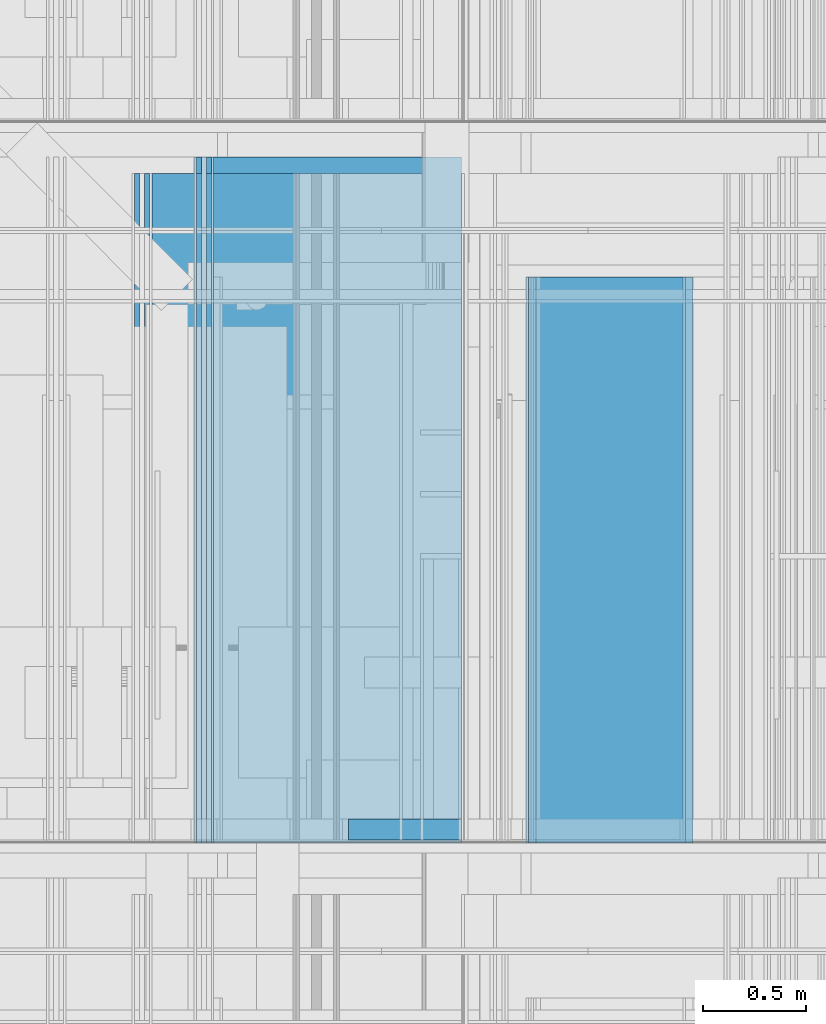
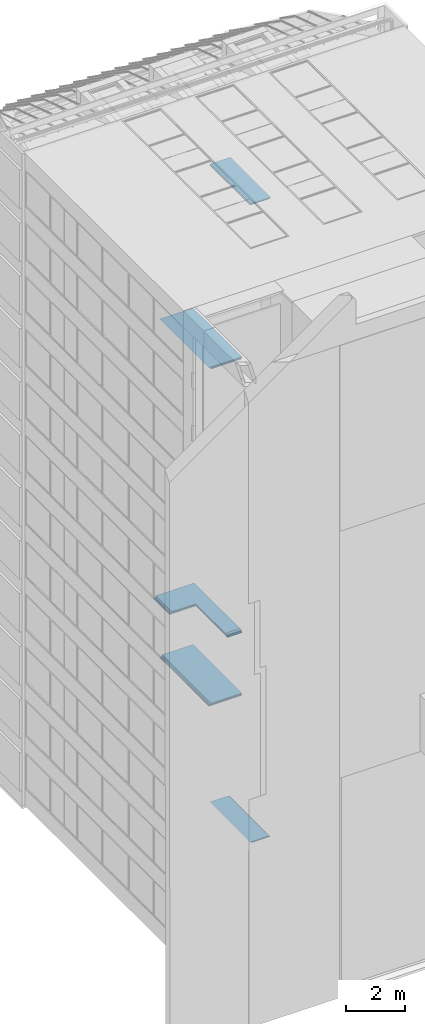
# One storey, part 71 of 583: 15 building element parts, 3 openings, 5 elements without a shape of their own.
"""IFC2X3 building model written with IfcOpenShell, lengths in metres."""

import ifcopenshell
import ifcopenshell.guid

model = None  # the IFC model being written
_history = None  # IfcOwnerHistory: only IFC2X3 demands one
_inside = {}  # id of a spatial element -> (the spatial element, [elements in it])
_under = {}  # id of a project, library or spatial element -> (it, [spatial elements below it])
_declared = {}  # id of a project -> (the project, [libraries it declares])
_typed = {}  # id of a type object -> (the type object, [elements of that type])
_made_of = {}  # id of a material, layer set ... -> (it, [elements and type objects made of it])


def new_model(schema):
    """Start an empty IFC model of exactly this schema.

    Asked for "IFC4X3", IfcOpenShell would pick the latest addendum, in which some entities
    have other attributes; the version numbers below select the first issue.
    IFC2X3 requires an IfcOwnerHistory on every rooted entity: one is made here for all.
    """
    global model, _history
    if schema == "IFC4X3":
        model = ifcopenshell.file(schema_version=(4, 3, 0, 0))
    else:
        model = ifcopenshell.file(schema=schema)
    _inside.clear()
    _under.clear()
    _declared.clear()
    _typed.clear()
    _made_of.clear()
    _history = None
    if model.schema == "IFC2X3":
        org = make("IfcOrganization", Name="unknown")
        user = make(
            "IfcPersonAndOrganization",
            ThePerson=make("IfcPerson", FamilyName="unknown"),
            TheOrganization=org,
        )
        app = make(
            "IfcApplication",
            ApplicationDeveloper=org,
            Version="unknown",
            ApplicationFullName="unknown",
            ApplicationIdentifier="unknown",
        )
        _history = make(
            "IfcOwnerHistory",
            OwningUser=user,
            OwningApplication=app,
            ChangeAction="ADDED",
            CreationDate=0,
        )
    return model


def make(cls, **values):
    """One entity of the class cls with the attributes given. An attribute that is None is left unset."""
    return model.create_entity(
        cls, **{name: value for name, value in values.items() if value is not None}
    )


def entity(cls, *values):
    """Any entity or typed value of the class cls, its attributes in the order of the schema. None: left unset."""
    e = model.create_entity(cls)
    for i, value in enumerate(values):
        if value is not None:
            e[i] = value
    return e


def rooted(cls, **values):
    """An entity with a GlobalId (a new one), such as an element, a storey or a relation."""
    return make(cls, GlobalId=ifcopenshell.guid.new(), OwnerHistory=_history, **values)


def si_unit(unit_type, name, prefix=None):
    """IfcSIUnit, for example si_unit("LENGTHUNIT", "METRE", prefix="MILLI")."""
    return make("IfcSIUnit", UnitType=unit_type, Prefix=prefix, Name=name)


def converted_unit(unit_type, name, factor, base, dimensions=None, offset=None):
    """IfcConversionBasedUnit, such as the inch: factor (a typed value) times the base unit."""
    return make(
        "IfcConversionBasedUnit"
        if offset is None
        else "IfcConversionBasedUnitWithOffset",
        ConversionOffset=offset,
        Dimensions=None
        if dimensions is None
        else entity("IfcDimensionalExponents", *dimensions),
        UnitType=unit_type,
        Name=name,
        ConversionFactor=make(
            "IfcMeasureWithUnit", ValueComponent=factor, UnitComponent=base
        ),
    )


def derived_unit(unit_type, elements):
    """IfcDerivedUnit: a product of units, each with its exponent."""
    return make(
        "IfcDerivedUnit",
        Elements=[
            make("IfcDerivedUnitElement", Unit=unit, Exponent=power)
            for unit, power in elements
        ],
        UnitType=unit_type,
    )


def money_unit(currency):
    """IfcMonetaryUnit."""
    return make("IfcMonetaryUnit", Currency=currency)


def assignment(units):
    """IfcUnitAssignment: the units of a project."""
    return None if units is None else make("IfcUnitAssignment", Units=units)


def point(xyz):
    """IfcCartesianPoint."""
    return None if xyz is None else make("IfcCartesianPoint", Coordinates=xyz)


def direction(xyz):
    """IfcDirection."""
    return None if xyz is None else make("IfcDirection", DirectionRatios=xyz)


def frame(location, z_axis=None, x_axis=None):
    """IfcAxis2Placement3D, a coordinate frame: its origin and axes. An axis left out is left unset."""
    return make(
        "IfcAxis2Placement3D",
        Location=point(location),
        Axis=direction(z_axis),
        RefDirection=direction(x_axis),
    )


def frame_2d(location, x_axis=None):
    """IfcAxis2Placement2D, a coordinate frame in the plane: its origin and x axis."""
    return make(
        "IfcAxis2Placement2D", Location=point(location), RefDirection=direction(x_axis)
    )


def origin_with_axes():
    """The frame at (0, 0, 0) with the z axis (0, 0, 1) and the x axis (1, 0, 0) written out."""
    return frame((0.0, 0.0, 0.0), z_axis=(0.0, 0.0, 1.0), x_axis=(1.0, 0.0, 0.0))


def place(relative_to, where):
    """IfcLocalPlacement: puts the frame where relative to a parent placement (None: the world)."""
    return make(
        "IfcLocalPlacement", PlacementRelTo=relative_to, RelativePlacement=where
    )


def context(
    kind, dimensions, precision=None, world=None, true_north=None, identifier=None
):
    """IfcGeometricRepresentationContext, for example the 3D "Model" context."""
    return make(
        "IfcGeometricRepresentationContext",
        ContextIdentifier=identifier,
        ContextType=kind,
        CoordinateSpaceDimension=dimensions,
        Precision=precision,
        WorldCoordinateSystem=world,
        TrueNorth=true_north,
    )


def subcontext(parent, identifier, kind, view, scale=None):
    """IfcGeometricRepresentationSubContext, for example "Body" below "Model"."""
    return make(
        "IfcGeometricRepresentationSubContext",
        ContextIdentifier=identifier,
        ContextType=kind,
        ParentContext=parent,
        TargetScale=scale,
        TargetView=view,
    )


def project(units=None, contexts=None):
    """IfcProject with its units and contexts."""
    return rooted(
        "IfcProject",
        Name="project",
        RepresentationContexts=contexts,
        UnitsInContext=assignment(units),
    )


def spatial(cls, under=None, at=None, **own):
    """A site, building, storey or space (cls), placed at a placement, below another one or the project."""
    s = rooted(cls, ObjectPlacement=at, **own)
    if under is not None:
        _under.setdefault(under.id(), (under, []))[1].append(s)
    return s


def polyline(points):
    """IfcPolyline through the points."""
    return make("IfcPolyline", Points=[point(p) for p in points])


def profile(cls, at=None, kind="AREA", **sizes):
    """A parametric profile (cls). Its sizes go by their IFC names, for example OverallWidth=200.0."""
    return make(cls, ProfileType=kind, Position=at, **sizes)


def rectangle(**sizes):
    """IfcRectangleProfileDef."""
    return profile("IfcRectangleProfileDef", **sizes)


def outline(outer, holes=None, kind="AREA"):
    """IfcArbitraryClosedProfileDef: a profile drawn as a closed curve; with holes, ...WithVoids."""
    if holes is None:
        return make("IfcArbitraryClosedProfileDef", ProfileType=kind, OuterCurve=outer)
    return make(
        "IfcArbitraryProfileDefWithVoids",
        ProfileType=kind,
        OuterCurve=outer,
        InnerCurves=holes,
    )


def extrude(swept, where, along, depth):
    """IfcExtrudedAreaSolid: the profile swept, set in the frame where, extruded along a direction by depth."""
    return make(
        "IfcExtrudedAreaSolid",
        SweptArea=swept,
        Position=where,
        ExtrudedDirection=direction(along),
        Depth=depth,
    )


def shape(context_of_items, identifier, shape_type, items):
    """IfcShapeRepresentation: the items that make up one representation, for example the "Body"."""
    return make(
        "IfcShapeRepresentation",
        ContextOfItems=context_of_items,
        RepresentationIdentifier=identifier,
        RepresentationType=shape_type,
        Items=items,
    )


def material(Name=None, Category=None):
    """IfcMaterial."""
    return make("IfcMaterial", Name=Name, Category=Category)


def made_of(thing, what):
    """Note that an element or type object is made of a material, layer set ...; save() writes the relation."""
    if what is not None:
        _made_of.setdefault(what.id(), (what, []))[1].append(thing)
    return thing


def type_object(cls, material=None, **own):
    """A type object (cls), such as IfcWallType, which elements share."""
    return made_of(rooted(cls, **own), material)


def element(
    cls,
    number,
    at=None,
    inside=None,
    cuts=None,
    type_object=None,
    material=None,
    context=None,
    identifier="Body",
    shape_type=None,
    held_by="IfcProductDefinitionShape",
    body=None,
    shapes=None,
    **own,
):
    """One element of the class cls, such as IfcWall. Its Tag is "e" and its number.

    at: its placement. inside: the storey or other place that contains it. cuts: it is an
    opening in that element (IfcRelVoidsElement). A single representation is given by context,
    identifier, shape_type and body (its items); several are given by shapes. held_by: the class
    of the entity that holds the representations. save() writes the other relations.
    """
    e = rooted(cls, Tag="e%d" % number, ObjectPlacement=at, **own)
    if body is not None:
        shapes = [shape(context, identifier, shape_type, body)]
    if shapes is not None:
        e.Representation = make(held_by, Representations=shapes)
    if inside is not None:
        _inside.setdefault(inside.id(), (inside, []))[1].append(e)
    if cuts is not None:
        rooted(
            "IfcRelVoidsElement", RelatingBuildingElement=cuts, RelatedOpeningElement=e
        )
    if type_object is not None:
        _typed.setdefault(type_object.id(), (type_object, []))[1].append(e)
    return made_of(e, material)


def aggregate(whole, parts):
    """IfcRelAggregates: a whole, such as a stair, and the parts it consists of."""
    return rooted("IfcRelAggregates", RelatingObject=whole, RelatedObjects=parts)


def save(model, path):
    """Write the relations noted so far, then the file.

    IfcRelAggregates (storeys below a building ...), IfcRelContainedInSpatialStructure (elements
    in a storey), IfcRelDefinesByType, IfcRelAssociatesMaterial and IfcRelDeclares: one each for
    every whole, place, type object, material and project.
    """
    for whole, parts in _under.values():
        aggregate(whole, parts)
    for where, things in _inside.values():
        rooted(
            "IfcRelContainedInSpatialStructure",
            RelatedElements=things,
            RelatingStructure=where,
        )
    for kind, things in _typed.values():
        rooted("IfcRelDefinesByType", RelatedObjects=things, RelatingType=kind)
    for what, things in _made_of.values():
        rooted("IfcRelAssociatesMaterial", RelatedObjects=things, RelatingMaterial=what)
    for by, libraries in _declared.values():
        rooted("IfcRelDeclares", RelatingContext=by, RelatedDefinitions=libraries)
    model.write(path)


model = new_model("IFC2X3")

# Units and contexts
model_context = context("Model", 3, precision=1e-05, world=origin_with_axes(), true_north=direction((0.0, 1.0)))
body_context = subcontext(model_context, "Body", "Model", "MODEL_VIEW", scale=1.0)
ifc_project = project(units=[si_unit("LENGTHUNIT", "METRE"), si_unit("AREAUNIT", "SQUARE_METRE"), si_unit("VOLUMEUNIT", "CUBIC_METRE"), si_unit("ABSORBEDDOSEUNIT", "GRAY"), si_unit("AMOUNTOFSUBSTANCEUNIT", "MOLE"), si_unit("DOSEEQUIVALENTUNIT", "SIEVERT"), si_unit("ELECTRICCAPACITANCEUNIT", "FARAD"), si_unit("ELECTRICCHARGEUNIT", "COULOMB"), si_unit("ELECTRICCONDUCTANCEUNIT", "SIEMENS"), si_unit("ELECTRICCURRENTUNIT", "AMPERE"), si_unit("ELECTRICRESISTANCEUNIT", "OHM"), si_unit("ELECTRICVOLTAGEUNIT", "VOLT"), si_unit("ENERGYUNIT", "JOULE"), si_unit("FORCEUNIT", "NEWTON"), si_unit("FREQUENCYUNIT", "HERTZ"), si_unit("ILLUMINANCEUNIT", "LUX"), si_unit("INDUCTANCEUNIT", "HENRY"), si_unit("LUMINOUSFLUXUNIT", "LUMEN"), si_unit("LUMINOUSINTENSITYUNIT", "CANDELA"), si_unit("MAGNETICFLUXDENSITYUNIT", "TESLA"), si_unit("MAGNETICFLUXUNIT", "WEBER"), si_unit("MASSUNIT", "GRAM"), converted_unit("PLANEANGLEUNIT", "degree", entity("IfcReal", 0.0174532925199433), si_unit("PLANEANGLEUNIT", "RADIAN"), dimensions=[0, 0, 0, 0, 0, 0, 0]), si_unit("POWERUNIT", "WATT"), si_unit("PRESSUREUNIT", "PASCAL"), si_unit("RADIOACTIVITYUNIT", "BECQUEREL"), si_unit("SOLIDANGLEUNIT", "STERADIAN"), si_unit("THERMODYNAMICTEMPERATUREUNIT", "KELVIN"), si_unit("TIMEUNIT", "SECOND"), derived_unit("ACCELERATIONUNIT", [(si_unit("LENGTHUNIT", "METRE"), 1), (si_unit("TIMEUNIT", "SECOND"), -2)]), derived_unit("ANGULARVELOCITYUNIT", [(converted_unit("PLANEANGLEUNIT", "degree", entity("IfcReal", 0.0174532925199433), si_unit("PLANEANGLEUNIT", "RADIAN"), dimensions=[0, 0, 0, 0, 0, 0, 0]), 1), (si_unit("TIMEUNIT", "SECOND"), -1)]), derived_unit("CURVATUREUNIT", [(converted_unit("PLANEANGLEUNIT", "degree", entity("IfcReal", 0.0174532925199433), si_unit("PLANEANGLEUNIT", "RADIAN"), dimensions=[0, 0, 0, 0, 0, 0, 0]), 1), (si_unit("LENGTHUNIT", "METRE"), -1)]), derived_unit("DYNAMICVISCOSITYUNIT", [(si_unit("PRESSUREUNIT", "PASCAL"), 1), (si_unit("TIMEUNIT", "SECOND"), 1)]), derived_unit("HEATFLUXDENSITYUNIT", [(si_unit("POWERUNIT", "WATT"), 1), (si_unit("LENGTHUNIT", "METRE"), -2)]), derived_unit("HEATINGVALUEUNIT", [(si_unit("ENERGYUNIT", "JOULE"), 1), (si_unit("MASSUNIT", "GRAM"), -1)]), derived_unit("INTEGERCOUNTRATEUNIT", [(si_unit("TIMEUNIT", "SECOND"), -1)]), derived_unit("IONCONCENTRATIONUNIT", [(si_unit("MASSUNIT", "GRAM"), 1), (si_unit("VOLUMEUNIT", "CUBIC_METRE"), -1)]), derived_unit("ISOTHERMALMOISTURECAPACITYUNIT", [(si_unit("VOLUMEUNIT", "CUBIC_METRE"), 1), (si_unit("MASSUNIT", "GRAM"), -1)]), derived_unit("KINEMATICVISCOSITYUNIT", [(si_unit("AREAUNIT", "SQUARE_METRE"), 1), (si_unit("TIMEUNIT", "SECOND"), -1)]), derived_unit("LINEARFORCEUNIT", [(si_unit("FORCEUNIT", "NEWTON"), 1), (si_unit("LENGTHUNIT", "METRE"), -1)]), derived_unit("LINEARMOMENTUNIT", [(si_unit("FORCEUNIT", "NEWTON"), 1), (si_unit("LENGTHUNIT", "METRE"), -1)]), derived_unit("LINEARSTIFFNESSUNIT", [(si_unit("FORCEUNIT", "NEWTON"), 1), (si_unit("LENGTHUNIT", "METRE"), -1)]), derived_unit("LINEARVELOCITYUNIT", [(si_unit("LENGTHUNIT", "METRE"), 1), (si_unit("TIMEUNIT", "SECOND"), -1)]), derived_unit("LUMINOUSINTENSITYDISTRIBUTIONUNIT", [(si_unit("LUMINOUSINTENSITYUNIT", "CANDELA"), 1), (si_unit("LUMINOUSFLUXUNIT", "LUMEN"), -1)]), derived_unit("MASSDENSITYUNIT", [(si_unit("MASSUNIT", "GRAM"), 1), (si_unit("VOLUMEUNIT", "CUBIC_METRE"), -1)]), derived_unit("MASSFLOWRATEUNIT", [(si_unit("MASSUNIT", "GRAM"), 1), (si_unit("TIMEUNIT", "SECOND"), -1)]), derived_unit("MASSPERLENGTHUNIT", [(si_unit("MASSUNIT", "GRAM"), 1), (si_unit("LENGTHUNIT", "METRE"), -1)]), derived_unit("MODULUSOFELASTICITYUNIT", [(si_unit("FORCEUNIT", "NEWTON"), 1), (si_unit("AREAUNIT", "SQUARE_METRE"), -1)]), derived_unit("MODULUSOFLINEARSUBGRADEREACTIONUNIT", [(si_unit("FORCEUNIT", "NEWTON"), 1), (si_unit("LENGTHUNIT", "METRE"), -2)]), derived_unit("MODULUSOFROTATIONALSUBGRADEREACTIONUNIT", [(si_unit("FORCEUNIT", "NEWTON"), 1), (si_unit("LENGTHUNIT", "METRE"), 1)]), derived_unit("MODULUSOFSUBGRADEREACTIONUNIT", [(si_unit("FORCEUNIT", "NEWTON"), 1), (si_unit("VOLUMEUNIT", "CUBIC_METRE"), -1)]), derived_unit("MOISTUREDIFFUSIVITYUNIT", [(si_unit("VOLUMEUNIT", "CUBIC_METRE"), 1), (si_unit("TIMEUNIT", "SECOND"), -1)]), derived_unit("MOLECULARWEIGHTUNIT", [(si_unit("MASSUNIT", "GRAM"), 1), (si_unit("AMOUNTOFSUBSTANCEUNIT", "MOLE"), -1)]), derived_unit("PLANARFORCEUNIT", [(si_unit("FORCEUNIT", "NEWTON"), 1), (si_unit("LENGTHUNIT", "METRE"), -2)]), derived_unit("ROTATIONALFREQUENCYUNIT", [(si_unit("TIMEUNIT", "SECOND"), -1)]), derived_unit("ROTATIONALMASSUNIT", [(si_unit("MASSUNIT", "GRAM"), 1), (si_unit("LENGTHUNIT", "METRE"), 2)]), derived_unit("ROTATIONALSTIFFNESSUNIT", [(si_unit("FORCEUNIT", "NEWTON"), 1), (si_unit("LENGTHUNIT", "METRE"), 1), (converted_unit("PLANEANGLEUNIT", "degree", entity("IfcReal", 0.0174532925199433), si_unit("PLANEANGLEUNIT", "RADIAN"), dimensions=[0, 0, 0, 0, 0, 0, 0]), -1)]), derived_unit("SECTIONAREAINTEGRALUNIT", [(si_unit("LENGTHUNIT", "METRE"), 5)]), derived_unit("SECTIONMODULUSUNIT", [(si_unit("LENGTHUNIT", "METRE"), 3)]), derived_unit("SHEARMODULUSUNIT", [(si_unit("FORCEUNIT", "NEWTON"), 1), (si_unit("AREAUNIT", "SQUARE_METRE"), -1)]), derived_unit("SOUNDPOWERUNIT", [(si_unit("ENERGYUNIT", "JOULE"), 1), (si_unit("TIMEUNIT", "SECOND"), -1)]), derived_unit("SPECIFICHEATCAPACITYUNIT", [(si_unit("FORCEUNIT", "NEWTON"), 1), (si_unit("MASSUNIT", "GRAM"), -1), (si_unit("THERMODYNAMICTEMPERATUREUNIT", "KELVIN"), -1)]), derived_unit("TEMPERATUREGRADIENTUNIT", [(si_unit("THERMODYNAMICTEMPERATUREUNIT", "KELVIN"), 1), (si_unit("LENGTHUNIT", "METRE"), -1)]), derived_unit("THERMALADMITTANCEUNIT", [(si_unit("POWERUNIT", "WATT"), 1), (si_unit("AREAUNIT", "SQUARE_METRE"), -1), (si_unit("THERMODYNAMICTEMPERATUREUNIT", "KELVIN"), -1)]), derived_unit("THERMALCONDUCTANCEUNIT", [(si_unit("POWERUNIT", "WATT"), 1), (si_unit("LENGTHUNIT", "METRE"), -1), (si_unit("THERMODYNAMICTEMPERATUREUNIT", "KELVIN"), -1)]), derived_unit("THERMALEXPANSIONCOEFFICIENTUNIT", [(si_unit("THERMODYNAMICTEMPERATUREUNIT", "KELVIN"), -1)]), derived_unit("THERMALRESISTANCEUNIT", [(si_unit("AREAUNIT", "SQUARE_METRE"), 1), (si_unit("POWERUNIT", "WATT"), -1)]), derived_unit("THERMALTRANSMITTANCEUNIT", [(si_unit("POWERUNIT", "WATT"), 1), (si_unit("AREAUNIT", "SQUARE_METRE"), -1), (si_unit("THERMODYNAMICTEMPERATUREUNIT", "KELVIN"), -1)]), derived_unit("TORQUEUNIT", [(si_unit("FORCEUNIT", "NEWTON"), 1), (si_unit("LENGTHUNIT", "METRE"), 1)]), derived_unit("VAPORPERMEABILITYUNIT", [(si_unit("MASSUNIT", "GRAM"), 1), (si_unit("TIMEUNIT", "SECOND"), -1)]), derived_unit("VOLUMETRICFLOWRATEUNIT", [(si_unit("VOLUMEUNIT", "CUBIC_METRE"), 1), (si_unit("TIMEUNIT", "SECOND"), -1)]), derived_unit("WARPINGCONSTANTUNIT", [(si_unit("LENGTHUNIT", "METRE"), 6)]), derived_unit("WARPINGMOMENTUNIT", [(si_unit("FORCEUNIT", "NEWTON"), 1), (si_unit("LENGTHUNIT", "METRE"), 2)]), money_unit("GBP")], contexts=[model_context])

# Site, building, storey
site_placement = place(None, origin_with_axes())
site = spatial("IfcSite", under=ifc_project, at=site_placement, Name="Site", CompositionType="ELEMENT")
building_placement = place(site_placement, origin_with_axes())
building = spatial("IfcBuilding", under=site, at=building_placement, Name="Building01", CompositionType="ELEMENT")
storey_placement = place(building_placement, frame((0.0, 0.0, 20.78), z_axis=(0.0, 0.0, 1.0), x_axis=(1.0, 0.0, 0.0)))
storey = spatial("IfcBuildingStorey", under=building, at=storey_placement, Name="RL", CompositionType="ELEMENT", Elevation=20.78)

# Wall, building element parts
wall_type_1 = type_object("IfcWallType", Name="SHE_A-Walls_Type06d_ExternalWallInsulation_48mm", PredefinedType="NOTDEFINED")
wall_1_placement = place(storey_placement, frame((6.1, 8.64, -20.51), z_axis=(0.0, 1.0, 0.0), x_axis=(-1.0, 0.0, 0.0)))
wall_1 = element("IfcWall", 1, at=wall_1_placement, inside=storey, type_object=wall_type_1, Name="6D", ObjectType="SHE_A-Walls_Type06d_ExternalWallInsulation_48mm")
ifc_material_1 = material(Name="A_BSUK_Insulation")
placement_1 = place(wall_1_placement, origin_with_axes())
building_element_part_1 = element("IfcBuildingElementPart", 2, at=placement_1, material=ifc_material_1, Name="1", context=body_context, shape_type="SweptSolid", body=[
    extrude(outline(polyline([(0.773, 0.036), (0.036, 0.036), (0.0, 0.0), (0.737, 0.0), (0.773, 0.036)])), origin_with_axes(), (0.0, 0.0, 1.0), 2.74),
])
ifc_material_2 = material(Name="A_BSUK_WallInternal_Finishes_Plasterboard")
building_element_part_2 = element("IfcBuildingElementPart", 3, at=placement_1, material=ifc_material_2, Name="3", context=body_context, shape_type="SweptSolid", body=[
    extrude(outline(polyline([(0.785, 0.048), (0.048, 0.048), (0.035, 0.035), (0.772, 0.035), (0.785, 0.048)])), origin_with_axes(), (0.0, 0.0, 1.0), 2.74),
])
aggregate(wall_1, [building_element_part_1, building_element_part_2])

wall_2_placement = place(storey_placement, frame((5.34018, 8.64, 5.93), z_axis=(0.0, 1.0, 0.0), x_axis=(1.0, 0.0, 0.0)))
wall_2 = element("IfcWall", 4, at=wall_2_placement, inside=storey, type_object=wall_type_1, Name="6D", ObjectType="SHE_A-Walls_Type06d_ExternalWallInsulation_48mm")
placement_2 = place(wall_2_placement, origin_with_axes())
building_element_part_3 = element("IfcBuildingElementPart", 5, at=placement_2, material=ifc_material_1, Name="1", context=body_context, shape_type="SweptSolid", body=[
    extrude(outline(polyline([(0.72382, 0.036), (-0.036, 0.036), (0.0, 0.0), (0.75982, 0.0), (0.72382, 0.036)])), origin_with_axes(), (0.0, 0.0, 1.0), 2.74),
])
building_element_part_4 = element("IfcBuildingElementPart", 6, at=placement_2, material=ifc_material_2, Name="3", context=body_context, shape_type="SweptSolid", body=[
    extrude(outline(polyline([(0.71182, 0.048), (-0.048, 0.048), (-0.035, 0.035), (0.72482, 0.035), (0.71182, 0.048)])), origin_with_axes(), (0.0, 0.0, 1.0), 2.74),
])
aggregate(wall_2, [building_element_part_3, building_element_part_4])

# Wall, openings, building element parts
wall_type_2 = type_object("IfcWallType", Name="SHE_A-Walls_Type05a_Partition_95mm_tall", PredefinedType="NOTDEFINED")
wall_3_placement = place(storey_placement, frame((4.98, 8.64, -11.647464), z_axis=(0.0, 1.0, 0.0), x_axis=(-1.0, 0.0, 0.0)))
wall_3 = element("IfcWall", 7, at=wall_3_placement, inside=storey, type_object=wall_type_2, Name="5A", ObjectType="SHE_A-Walls_Type05a_Partition_95mm_tall")
opening_1_placement = place(wall_3_placement, frame((0.574219, 0.1, -0.015), z_axis=(0.0, 0.0, 1.0), x_axis=(1.0, 0.0, 0.0)))
element("IfcOpeningElement", 8, at=opening_1_placement, cuts=wall_3, Name="Opening", ObjectType="Opening", context=body_context, shape_type="SweptSolid", body=[
    extrude(rectangle(XDim=0.834, YDim=2.142, at=frame_2d((-0.417, 1.071), x_axis=(1.0, 0.0))), frame((0.0, -3.016327, 0.0), z_axis=(0.0, 1.0, 0.0), x_axis=(-1.0, 0.0, 0.0)), (0.0, 0.0, 1.0), 6.032653),
])
opening_2_placement = place(wall_3_placement, frame((0.774219, 0.06, 0.0), z_axis=(0.0, 0.0, 1.0), x_axis=(1.0, 0.0, 0.0)))
element("IfcOpeningElement", 9, at=opening_2_placement, cuts=wall_3, Name="Opening", ObjectType="Opening", context=body_context, shape_type="SweptSolid", body=[
    extrude(rectangle(XDim=2.142, YDim=0.834, at=frame_2d((-0.417, 1.071), x_axis=(0.0, -1.0))), frame((0.0, -4.043482, 0.0), z_axis=(0.0, 1.0, 0.0), x_axis=(-1.0, 0.0, 0.0)), (0.0, 0.0, 1.0), 8.086964),
])
opening_3_placement = place(wall_3_placement, frame((0.574219, 0.06, 0.0), z_axis=(0.0, 0.0, 1.0), x_axis=(1.0, 0.0, 0.0)))
element("IfcOpeningElement", 10, at=opening_3_placement, cuts=wall_3, Name="Opening", ObjectType="Opening", context=body_context, shape_type="SweptSolid", body=[
    extrude(rectangle(XDim=2.142, YDim=0.834, at=frame_2d((-0.417, 1.071), x_axis=(0.0, -1.0))), frame((0.0, -3.956148, 0.0), z_axis=(0.0, 1.0, 0.0), x_axis=(-1.0, 0.0, 0.0)), (0.0, 0.0, 1.0), 7.912296),
])
placement_3 = place(wall_3_placement, origin_with_axes())
building_element_part_5 = element("IfcBuildingElementPart", 11, at=placement_3, material=ifc_material_1, Name="1", context=body_context, shape_type="SweptSolid", body=[
    extrude(outline(polyline([(1.535, 0.025), (0.0, 0.025), (0.0, 0.0), (1.56, 0.0), (1.535, 0.025)])), origin_with_axes(), (0.0, 0.0, 1.0), 3.24),
])
ifc_material_3 = material(Name="A_BSUK_Walls_Timber")
building_element_part_6 = element("IfcBuildingElementPart", 12, at=placement_3, material=ifc_material_3, Name="2", context=body_context, shape_type="SweptSolid", body=[
    extrude(rectangle(XDim=0.015, YDim=0.547219, at=frame_2d((0.27361, -0.0425), x_axis=(0.0, -1.0))), frame((0.0, 0.0, 0.015), z_axis=(0.0, 0.0, 1.0), x_axis=(1.0, 0.0, 0.0)), (0.0, 0.0, 1.0), 0.1),
])
building_element_part_7 = element("IfcBuildingElementPart", 13, at=placement_3, material=ifc_material_3, Name="3", context=body_context, shape_type="SweptSolid", body=[
    extrude(rectangle(XDim=0.015, YDim=0.547219, at=frame_2d((0.27361, 0.0675), x_axis=(0.0, -1.0))), frame((0.0, 0.0, 0.015), z_axis=(0.0, 0.0, 1.0), x_axis=(1.0, 0.0, 0.0)), (0.0, 0.0, 1.0), 0.1),
])
building_element_part_8 = element("IfcBuildingElementPart", 14, at=placement_3, material=ifc_material_2, Name="4", context=body_context, shape_type="SweptSolid", body=[
    extrude(outline(polyline([(1.583, -0.023), (0.0, -0.023), (0.0, -0.035), (1.595, -0.035), (1.583, -0.023)])), origin_with_axes(), (0.0, 0.0, 1.0), 3.24),
])
building_element_part_9 = element("IfcBuildingElementPart", 15, at=placement_3, material=ifc_material_2, Name="5", context=body_context, shape_type="SweptSolid", body=[
    extrude(outline(polyline([(1.5, 0.06), (0.0, 0.06), (0.0, 0.048), (1.512, 0.048), (1.5, 0.06)])), origin_with_axes(), (0.0, 0.0, 1.0), 3.24),
])
aggregate(wall_3, [building_element_part_5, building_element_part_6, building_element_part_7, building_element_part_8, building_element_part_9])

# Wall, building element parts
wall_4_placement = place(storey_placement, frame((3.72, 8.64, -14.245), z_axis=(0.0, 1.0, 0.0), x_axis=(1.0, 0.0, 0.0)))
wall_4 = element("IfcWall", 16, at=wall_4_placement, inside=storey, type_object=wall_type_2, Name="5A", ObjectType="SHE_A-Walls_Type05a_Partition_95mm_tall")
placement_4 = place(wall_4_placement, origin_with_axes())
building_element_part_10 = element("IfcBuildingElementPart", 17, at=placement_4, material=ifc_material_1, Name="1", context=body_context, shape_type="SweptSolid", body=[
    extrude(outline(polyline([(1.26, 0.0), (0.0, 0.0), (0.025, -0.025), (1.26, -0.025), (1.26, 0.0)])), origin_with_axes(), (0.0, 0.0, 1.0), 3.32),
])
building_element_part_11 = element("IfcBuildingElementPart", 18, at=placement_4, material=ifc_material_2, Name="4", context=body_context, shape_type="SweptSolid", body=[
    extrude(outline(polyline([(1.26, 0.035), (-0.035, 0.035), (-0.023, 0.023), (1.26, 0.023), (1.26, 0.035)])), origin_with_axes(), (0.0, 0.0, 1.0), 3.32),
])
building_element_part_12 = element("IfcBuildingElementPart", 19, at=placement_4, material=ifc_material_2, Name="5", context=body_context, shape_type="SweptSolid", body=[
    extrude(outline(polyline([(1.26, -0.048), (0.048, -0.048), (0.06, -0.06), (1.26, -0.06), (1.26, -0.048)])), origin_with_axes(), (0.0, 0.0, 1.0), 3.32),
])
aggregate(wall_4, [building_element_part_10, building_element_part_11, building_element_part_12])

wall_5_placement = place(storey_placement, frame((3.72, 8.64, -0.305), z_axis=(0.0, 1.0, 0.0), x_axis=(1.0, 0.0, 0.0)))
wall_5 = element("IfcWall", 20, at=wall_5_placement, inside=storey, type_object=wall_type_2, Name="5A", ObjectType="SHE_A-Walls_Type05a_Partition_95mm_tall")
placement_5 = place(wall_5_placement, origin_with_axes())
building_element_part_13 = element("IfcBuildingElementPart", 21, at=placement_5, material=ifc_material_1, Name="1", context=body_context, shape_type="SweptSolid", body=[
    extrude(outline(polyline([(1.26, 0.025), (0.025, 0.025), (0.0, 0.0), (1.26, 0.0), (1.26, 0.025)])), origin_with_axes(), (0.0, 0.0, 1.0), 3.32),
])
building_element_part_14 = element("IfcBuildingElementPart", 22, at=placement_5, material=ifc_material_2, Name="4", context=body_context, shape_type="SweptSolid", body=[
    extrude(outline(polyline([(1.26, -0.023), (-0.023, -0.023), (-0.035, -0.035), (1.26, -0.035), (1.26, -0.023)])), origin_with_axes(), (0.0, 0.0, 1.0), 3.32),
])
building_element_part_15 = element("IfcBuildingElementPart", 23, at=placement_5, material=ifc_material_2, Name="5", context=body_context, shape_type="SweptSolid", body=[
    extrude(outline(polyline([(1.26, 0.06), (0.06, 0.06), (0.048, 0.048), (1.26, 0.048), (1.26, 0.06)])), origin_with_axes(), (0.0, 0.0, 1.0), 3.32),
])
aggregate(wall_5, [building_element_part_13, building_element_part_14, building_element_part_15])

save(model, "model.ifc")
